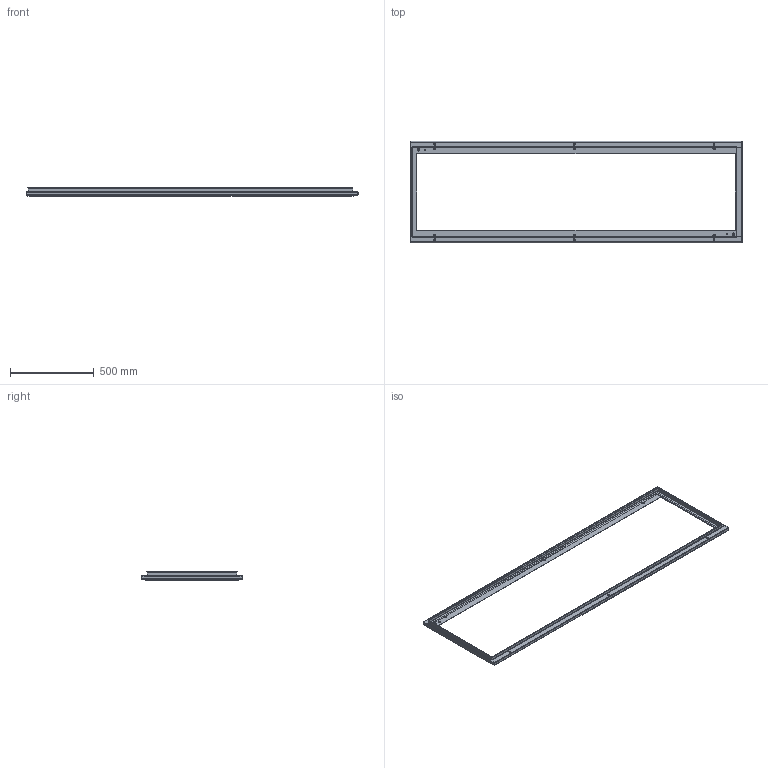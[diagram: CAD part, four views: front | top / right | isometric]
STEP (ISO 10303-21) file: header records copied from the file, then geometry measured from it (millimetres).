
FILE_DESCRIPTION (( 'STEP AP203' ), '1' );
FILE_NAME ('p2da206hf.STEP', '2016-06-08T16:30:08', ( '' ), ( '' ), 'SwSTEP 2.0', 'SolidWorks 2014', '' );
FILE_SCHEMA (( 'CONFIG_CONTROL_DESIGN' ));
Length unit declared in the file: millimetre
Products named in the file (8): 87931368_SLEEVE; 60100041_60100041; 89136209; 89136210_Default 2000X600; 89136208; p2da206hf; 89135421; 87931527_87931527
Assembly tree (8 placements, depth 5):
  p2da206hf
    89136208
      89136209
        89135421
        60100041_60100041  x2
          87931527_87931527
          87931368_SLEEVE
      89136210_Default 2000X600
Bounding box: 1983 x 604.28 x 50.98 mm (x, y, z)
Volume: 1644141.7 mm3; surface area: 1567397.8 mm2
Topology: 9 solids, 9 shells, 470 faces, 1066 edges, 632 vertices
Faces by surface type: plane 246, cylinder 112, torus 48, cone 48, bspline 16
Entity records: 12545 total; most frequent: CARTESIAN_POINT 2457, DIRECTION 2001, ORIENTED_EDGE 1838, EDGE_CURVE 919, AXIS2_PLACEMENT_3D 720, LINE 561, VECTOR 561, VERTEX_POINT 544
